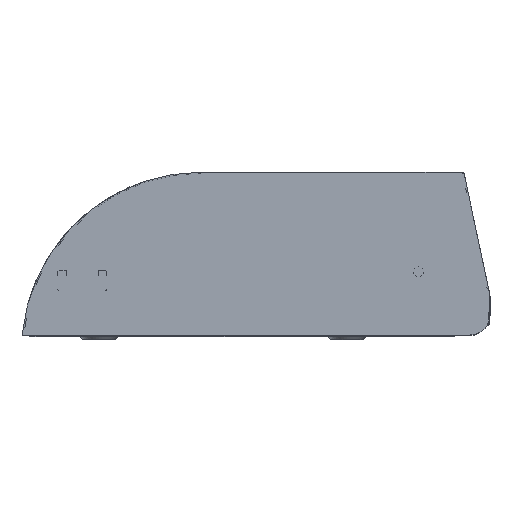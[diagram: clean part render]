
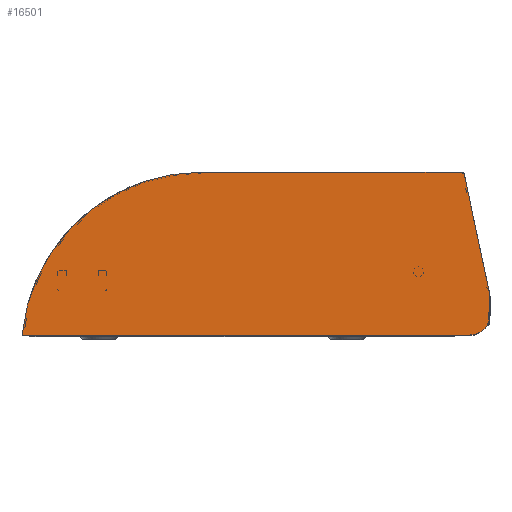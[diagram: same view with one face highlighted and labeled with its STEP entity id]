
A CAD part, top view. The second image highlights one B-rep face of the part: STEP entity #16501.
In plain terms, the highlighted planar face has unit normal (0, 0, 1).
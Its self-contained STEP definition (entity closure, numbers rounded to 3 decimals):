
#765=PLANE('',#17474);
#1339=FACE_OUTER_BOUND('',#2287,.T.);
#2287=EDGE_LOOP('',(#11378,#11379,#11380,#11381,#11382,#11383,#11384));
#3390=LINE('',#24180,#5017);
#3394=LINE('',#24192,#5021);
#3397=LINE('',#24198,#5024);
#3401=LINE('',#24209,#5028);
#5017=VECTOR('',#19165,256.116);
#5021=VECTOR('',#19177,122.39);
#5024=VECTOR('',#19182,18.7);
#5028=VECTOR('',#19194,439.7);
#6642=CIRCLE('',#17461,177.);
#6644=CIRCLE('',#17465,2.);
#6646=CIRCLE('',#17470,20.);
#7310=VERTEX_POINT('',#24170);
#7311=VERTEX_POINT('',#24171);
#7314=VERTEX_POINT('',#24179);
#7316=VERTEX_POINT('',#24185);
#7318=VERTEX_POINT('',#24191);
#7320=VERTEX_POINT('',#24197);
#7322=VERTEX_POINT('',#24203);
#8919=EDGE_CURVE('',#7310,#7311,#6642,.T.);
#8923=EDGE_CURVE('',#7311,#7314,#3390,.T.);
#8926=EDGE_CURVE('',#7314,#7316,#6644,.T.);
#8929=EDGE_CURVE('',#7316,#7318,#3394,.T.);
#8932=EDGE_CURVE('',#7318,#7320,#3397,.T.);
#8935=EDGE_CURVE('',#7320,#7322,#6646,.T.);
#8938=EDGE_CURVE('',#7322,#7310,#3401,.T.);
#11378=ORIENTED_EDGE('',*,*,#8919,.F.);
#11379=ORIENTED_EDGE('',*,*,#8938,.F.);
#11380=ORIENTED_EDGE('',*,*,#8935,.F.);
#11381=ORIENTED_EDGE('',*,*,#8932,.F.);
#11382=ORIENTED_EDGE('',*,*,#8929,.F.);
#11383=ORIENTED_EDGE('',*,*,#8926,.F.);
#11384=ORIENTED_EDGE('',*,*,#8923,.F.);
#16501=ADVANCED_FACE('',(#1339),#765,.T.);
#17461=AXIS2_PLACEMENT_3D('',#24172,#19157,#19158);
#17465=AXIS2_PLACEMENT_3D('',#24186,#19170,#19171);
#17470=AXIS2_PLACEMENT_3D('',#24204,#19187,#19188);
#17474=AXIS2_PLACEMENT_3D('',#24212,#19198,#19199);
#19157=DIRECTION('center_axis',(0.,0.,-1.));
#19158=DIRECTION('ref_axis',(0.,1.,0.));
#19165=DIRECTION('',(1.,0.,0.));
#19170=DIRECTION('center_axis',(0.,0.,-1.));
#19171=DIRECTION('ref_axis',(0.978,0.208,0.));
#19177=DIRECTION('',(0.208,-0.978,0.));
#19182=DIRECTION('',(0.,-1.,0.));
#19187=DIRECTION('center_axis',(0.,0.,-1.));
#19188=DIRECTION('ref_axis',(0.,-1.,0.));
#19194=DIRECTION('',(-1.,0.,0.));
#19198=DIRECTION('center_axis',(0.,0.,1.));
#19199=DIRECTION('ref_axis',(1.,0.,0.));
#24170=CARTESIAN_POINT('',(-219.85,-29.35,1.5));
#24171=CARTESIAN_POINT('',(-43.668,130.65,1.5));
#24172=CARTESIAN_POINT('Origin',(-43.668,-46.35,1.5));
#24179=CARTESIAN_POINT('',(212.447,130.65,1.5));
#24180=CARTESIAN_POINT('',(212.447,130.65,1.5));
#24185=CARTESIAN_POINT('',(214.404,129.066,1.5));
#24186=CARTESIAN_POINT('Origin',(212.447,128.65,1.5));
#24191=CARTESIAN_POINT('',(239.85,9.35,1.5));
#24192=CARTESIAN_POINT('',(239.85,9.35,1.5));
#24197=CARTESIAN_POINT('',(239.85,-9.35,1.5));
#24198=CARTESIAN_POINT('',(239.85,-9.35,1.5));
#24203=CARTESIAN_POINT('',(219.85,-29.35,1.5));
#24204=CARTESIAN_POINT('Origin',(219.85,-9.35,1.5));
#24209=CARTESIAN_POINT('',(-219.85,-29.35,1.5));
#24212=CARTESIAN_POINT('Origin',(19.955,41.692,1.5));
